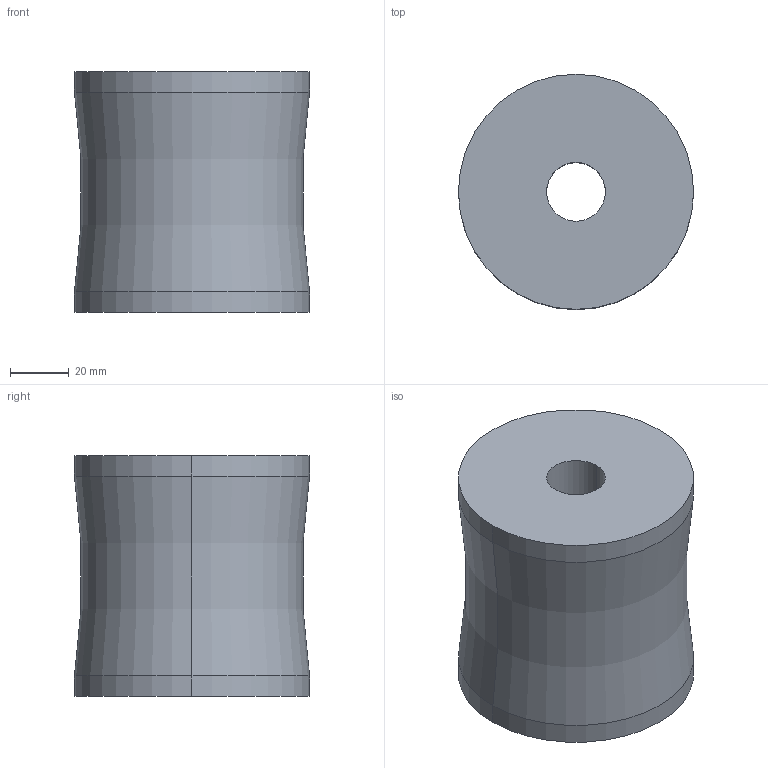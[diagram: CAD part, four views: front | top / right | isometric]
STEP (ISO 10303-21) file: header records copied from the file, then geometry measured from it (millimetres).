
FILE_DESCRIPTION(/* description */ (''),/* implementation_level */ '2;1');
FILE_NAME(/* name */ '3d_ex8208_06503_r00.stp',/* time_stamp */ '2011-01-10T14:15:38+09:00',/* author */ ('MISUMI'),/* organization */ (''),/* preprocessor_version */ 'ST-DEVELOPER v11',/* originating_system */ 'UGS - NX 5.0',/* authorisation */ '');
FILE_SCHEMA (('CONFIG_CONTROL_DESIGN'));
Length unit declared in the file: millimetre
Products named in the file (1): 3d_ex8208_06503_r00
Bounding box: 80 x 80 x 82 mm (x, y, z)
Volume: 358614.5 mm3; surface area: 34533 mm2
Topology: 1 solids, 1 shells, 10 faces, 20 edges, 12 vertices
Faces by surface type: cylinder 6, plane 2, torus 2
Entity records: 356 total; most frequent: DIRECTION 56, CARTESIAN_POINT 43, ORIENTED_EDGE 40, AXIS2_PLACEMENT_3D 25, EDGE_CURVE 20, CIRCLE 14, EDGE_LOOP 12, VERTEX_POINT 12
